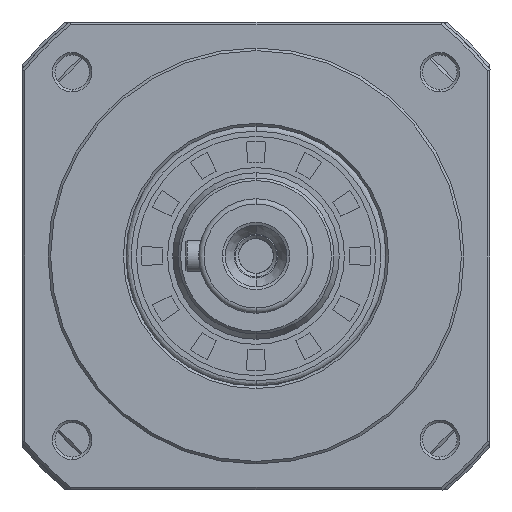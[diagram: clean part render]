
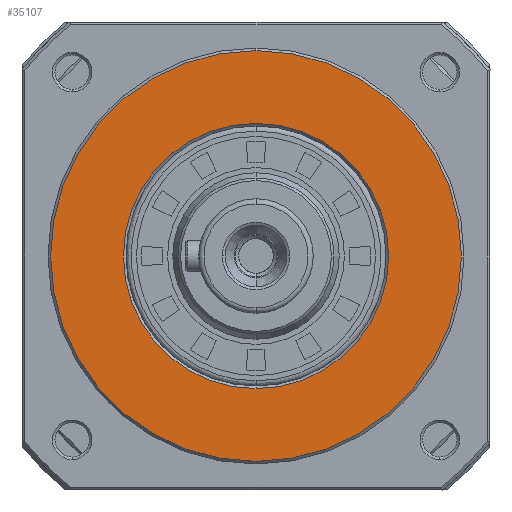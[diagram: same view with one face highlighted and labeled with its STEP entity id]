
A CAD part, left-side view. The second image highlights one B-rep face of the part: STEP entity #35107.
In plain terms, the highlighted planar face has unit normal (-1, 0, 0).
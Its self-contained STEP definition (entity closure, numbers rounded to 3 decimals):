
#8331 = DIRECTION ( 'NONE',  ( 0., 0., 1. ) ) ;
#11658 = AXIS2_PLACEMENT_3D ( 'NONE', #49143, #56917, #64382 ) ;
#17100 = CARTESIAN_POINT ( 'NONE',  ( 0., 0., -25.5 ) ) ;
#17886 = ORIENTED_EDGE ( 'NONE', *, *, #21607, .T. ) ;
#19622 = FACE_BOUND ( 'NONE', #47983, .T. ) ;
#20424 = CARTESIAN_POINT ( 'NONE',  ( 0., 0., -39.5 ) ) ;
#21592 = DIRECTION ( 'NONE',  ( 0., 0., 1. ) ) ;
#21607 = EDGE_CURVE ( 'NONE', #50700, #64320, #24470, .T. ) ;
#22195 = CARTESIAN_POINT ( 'NONE',  ( 0., 0., 25.5 ) ) ;
#23399 = ORIENTED_EDGE ( 'NONE', *, *, #53554, .T. ) ;
#24094 = ORIENTED_EDGE ( 'NONE', *, *, #96214, .F. ) ;
#24470 = CIRCLE ( 'NONE', #11658, 39.5 ) ;
#26291 = CARTESIAN_POINT ( 'NONE',  ( 0., 0., 0. ) ) ;
#30299 = CARTESIAN_POINT ( 'NONE',  ( 0., 0., 39.5 ) ) ;
#31055 = AXIS2_PLACEMENT_3D ( 'NONE', #59430, #82541, #59120 ) ;
#33455 = DIRECTION ( 'NONE',  ( 0., 0., -1. ) ) ;
#35107 = ADVANCED_FACE ( 'NONE', ( #19622, #51007 ), #37679, .F. ) ;
#36830 = CARTESIAN_POINT ( 'NONE',  ( 0., 0., 0. ) ) ;
#37679 = PLANE ( 'NONE',  #31055 ) ;
#41653 = EDGE_CURVE ( 'NONE', #60851, #48138, #60104, .T. ) ;
#44408 = ORIENTED_EDGE ( 'NONE', *, *, #41653, .F. ) ;
#45384 = CARTESIAN_POINT ( 'NONE',  ( 0., 0., 0. ) ) ;
#45703 = DIRECTION ( 'NONE',  ( -1., 0., 0. ) ) ;
#47983 = EDGE_LOOP ( 'NONE', ( #24094, #44408 ) ) ;
#48138 = VERTEX_POINT ( 'NONE', #22195 ) ;
#49143 = CARTESIAN_POINT ( 'NONE',  ( 0., 0., 0. ) ) ;
#50700 = VERTEX_POINT ( 'NONE', #30299 ) ;
#51007 = FACE_OUTER_BOUND ( 'NONE', #54250, .T. ) ;
#53461 = AXIS2_PLACEMENT_3D ( 'NONE', #26291, #78258, #33455 ) ;
#53554 = EDGE_CURVE ( 'NONE', #64320, #50700, #72353, .T. ) ;
#54250 = EDGE_LOOP ( 'NONE', ( #23399, #17886 ) ) ;
#56917 = DIRECTION ( 'NONE',  ( -1., 0., 0. ) ) ;
#59120 = DIRECTION ( 'NONE',  ( 0., 0., -1. ) ) ;
#59430 = CARTESIAN_POINT ( 'NONE',  ( 0., -39.974, 39.974 ) ) ;
#60104 = CIRCLE ( 'NONE', #70557, 25.5 ) ;
#60851 = VERTEX_POINT ( 'NONE', #17100 ) ;
#64320 = VERTEX_POINT ( 'NONE', #20424 ) ;
#64382 = DIRECTION ( 'NONE',  ( 0., 0., -1. ) ) ;
#70557 = AXIS2_PLACEMENT_3D ( 'NONE', #45384, #45703, #8331 ) ;
#71812 = AXIS2_PLACEMENT_3D ( 'NONE', #36830, #88808, #21592 ) ;
#72353 = CIRCLE ( 'NONE', #53461, 39.5 ) ;
#78258 = DIRECTION ( 'NONE',  ( -1., 0., 0. ) ) ;
#82541 = DIRECTION ( 'NONE',  ( 1., 0., 0. ) ) ;
#85806 = CIRCLE ( 'NONE', #71812, 25.5 ) ;
#88808 = DIRECTION ( 'NONE',  ( -1., 0., 0. ) ) ;
#96214 = EDGE_CURVE ( 'NONE', #48138, #60851, #85806, .T. ) ;
